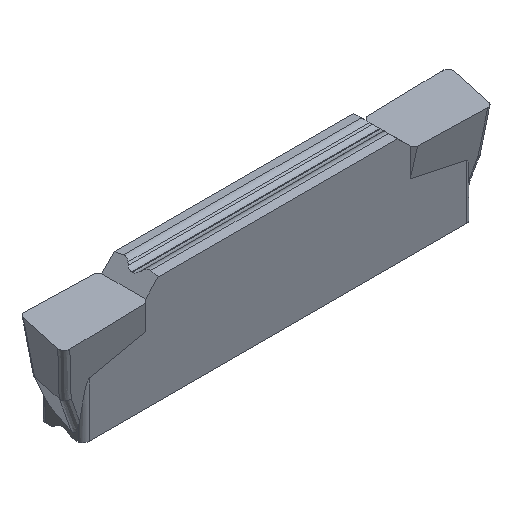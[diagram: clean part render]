
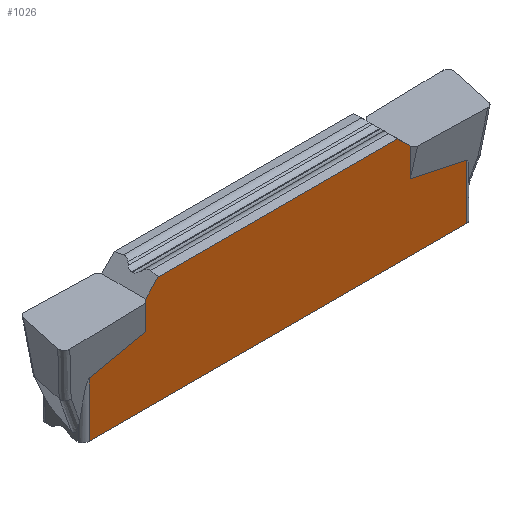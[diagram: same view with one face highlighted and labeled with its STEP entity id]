
A CAD part, isometric view. The second image highlights one B-rep face of the part: STEP entity #1026.
In plain terms, the highlighted planar face has unit normal (0, -1, 0).
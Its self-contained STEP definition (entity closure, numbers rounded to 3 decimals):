
#134=FACE_OUTER_BOUND('',#192,.T.);
#192=EDGE_LOOP('',(#873,#874,#875,#876,#877,#878,#879,#880,#881,#882));
#247=LINE('',#2071,#331);
#253=LINE('',#2093,#337);
#255=LINE('',#2097,#339);
#261=LINE('',#2112,#345);
#281=LINE('',#2766,#365);
#292=LINE('',#2796,#376);
#295=LINE('',#2802,#379);
#297=LINE('',#2812,#381);
#298=LINE('',#2815,#382);
#299=LINE('',#2816,#383);
#331=VECTOR('',#1188,1.);
#337=VECTOR('',#1206,1.);
#339=VECTOR('',#1210,1.);
#345=VECTOR('',#1228,1.);
#365=VECTOR('',#1268,1.);
#376=VECTOR('',#1301,1.);
#379=VECTOR('',#1306,1.);
#381=VECTOR('',#1316,1.);
#382=VECTOR('',#1321,1.);
#383=VECTOR('',#1322,1.);
#431=VERTEX_POINT('',#2064);
#432=VERTEX_POINT('',#2068);
#433=VERTEX_POINT('',#2070);
#443=VERTEX_POINT('',#2091);
#444=VERTEX_POINT('',#2096);
#476=VERTEX_POINT('',#2749);
#479=VERTEX_POINT('',#2764);
#487=VERTEX_POINT('',#2794);
#492=VERTEX_POINT('',#2809);
#493=VERTEX_POINT('',#2811);
#544=EDGE_CURVE('',#433,#432,#247,.T.);
#555=EDGE_CURVE('',#443,#431,#253,.T.);
#557=EDGE_CURVE('',#444,#431,#255,.T.);
#565=EDGE_CURVE('',#432,#444,#261,.T.);
#609=EDGE_CURVE('',#443,#479,#281,.T.);
#624=EDGE_CURVE('',#487,#476,#292,.T.);
#627=EDGE_CURVE('',#479,#476,#295,.T.);
#632=EDGE_CURVE('',#492,#493,#297,.T.);
#634=EDGE_CURVE('',#493,#487,#298,.T.);
#635=EDGE_CURVE('',#492,#433,#299,.T.);
#873=ORIENTED_EDGE('',*,*,#609,.T.);
#874=ORIENTED_EDGE('',*,*,#627,.T.);
#875=ORIENTED_EDGE('',*,*,#624,.F.);
#876=ORIENTED_EDGE('',*,*,#634,.F.);
#877=ORIENTED_EDGE('',*,*,#632,.F.);
#878=ORIENTED_EDGE('',*,*,#635,.T.);
#879=ORIENTED_EDGE('',*,*,#544,.T.);
#880=ORIENTED_EDGE('',*,*,#565,.T.);
#881=ORIENTED_EDGE('',*,*,#557,.T.);
#882=ORIENTED_EDGE('',*,*,#555,.F.);
#972=PLANE('',#1115);
#1026=ADVANCED_FACE('',(#134),#972,.F.);
#1115=AXIS2_PLACEMENT_3D('',#2814,#1319,#1320);
#1188=DIRECTION('',(0.,0.,1.));
#1206=DIRECTION('',(0.707,0.,-0.707));
#1210=DIRECTION('',(0.,0.,1.));
#1228=DIRECTION('',(-0.978,0.,0.209));
#1268=DIRECTION('',(-1.,0.,0.));
#1301=DIRECTION('',(0.,0.,1.));
#1306=DIRECTION('',(-0.707,0.,-0.707));
#1316=DIRECTION('',(0.,0.,1.));
#1319=DIRECTION('center_axis',(0.,1.,0.));
#1320=DIRECTION('ref_axis',(-1.,0.,0.));
#1321=DIRECTION('',(0.978,0.,0.209));
#1322=DIRECTION('',(1.,0.,0.));
#2064=CARTESIAN_POINT('',(13.,-0.8,0.));
#2068=CARTESIAN_POINT('',(15.05,-0.8,-1.469));
#2070=CARTESIAN_POINT('',(15.05,-0.8,-3.466));
#2071=CARTESIAN_POINT('',(15.05,-0.8,-3.5));
#2091=CARTESIAN_POINT('',(12.534,-0.8,0.466));
#2093=CARTESIAN_POINT('',(15.875,-0.8,-2.875));
#2096=CARTESIAN_POINT('',(13.,-0.8,-1.032));
#2097=CARTESIAN_POINT('',(13.,-0.8,-3.15));
#2112=CARTESIAN_POINT('',(15.564,-0.8,-1.579));
#2749=CARTESIAN_POINT('',(3.338,-0.8,0.));
#2764=CARTESIAN_POINT('',(3.804,-0.8,0.466));
#2766=CARTESIAN_POINT('',(0.75,-0.8,0.466));
#2794=CARTESIAN_POINT('',(3.338,-0.8,-1.032));
#2796=CARTESIAN_POINT('',(3.338,-0.8,-3.15));
#2802=CARTESIAN_POINT('',(0.463,-0.8,-2.875));
#2809=CARTESIAN_POINT('',(1.288,-0.8,-3.466));
#2811=CARTESIAN_POINT('',(1.288,-0.8,-1.469));
#2812=CARTESIAN_POINT('',(1.288,-0.8,-3.5));
#2814=CARTESIAN_POINT('Origin',(1.088,-0.8,-3.5));
#2815=CARTESIAN_POINT('',(0.774,-0.8,-1.579));
#2816=CARTESIAN_POINT('',(0.75,-0.8,-3.466));
